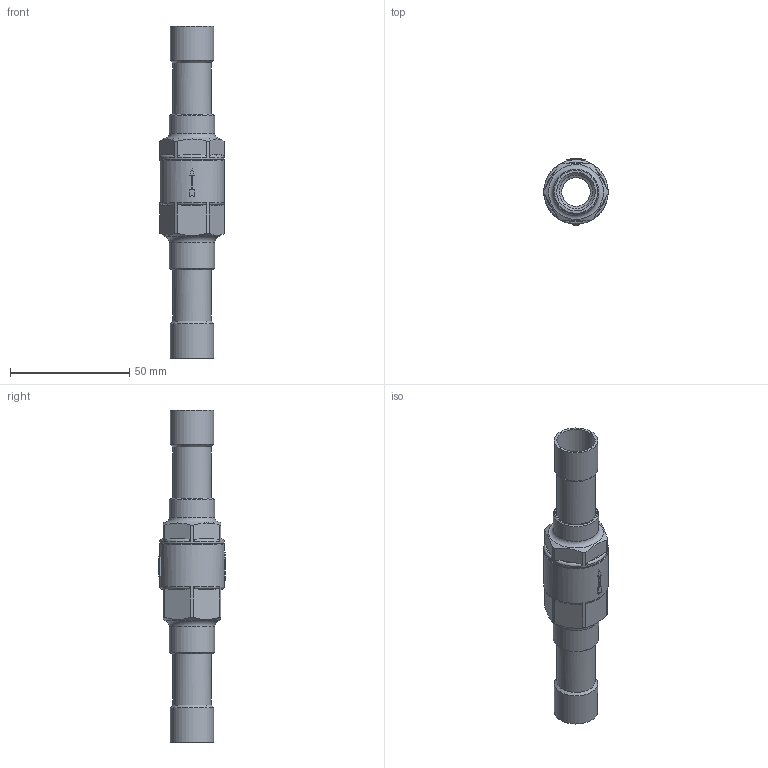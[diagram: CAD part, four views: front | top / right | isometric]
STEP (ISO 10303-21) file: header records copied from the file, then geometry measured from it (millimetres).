
FILE_DESCRIPTION(/* description */ (''),/* implementation_level */ '2;1');
FILE_NAME(/* name */ '3132_5',/* time_stamp */ '2009-04-16T08:50:50+02:00',/* author */ (''),/* organization */ (''),/* preprocessor_version */ 'ST-DEVELOPER v9',/* originating_system */ 'UGS - NX 4.0',/* authorisation */ '');
FILE_SCHEMA (('CONFIG_CONTROL_DESIGN'));
Length unit declared in the file: millimetre
Products named in the file (1): FColA8166ksq
Bounding box: 27 x 28 x 139 mm (x, y, z)
Volume: 19124.1 mm3; surface area: 17334.8 mm2
Topology: 1 solids, 2 shells, 126 faces, 309 edges, 199 vertices
Faces by surface type: plane 60, cylinder 27, cone 22, torus 17
Full cylindrical faces by diameter (mm): 12 x2, 14 x2, 16 x2, 16.1 x2, 18 x1, 18.1 x2, 19 x2, 20 x1, 20.4 x1, 21.1 x1, 23 x1, 27 x2
Entity records: 3766 total; most frequent: CARTESIAN_POINT 959, DIRECTION 582, ORIENTED_EDGE 494, AXIS2_PLACEMENT_3D 248, EDGE_CURVE 247, EDGE_LOOP 188, VERTEX_POINT 183, ADVANCED_FACE 126
